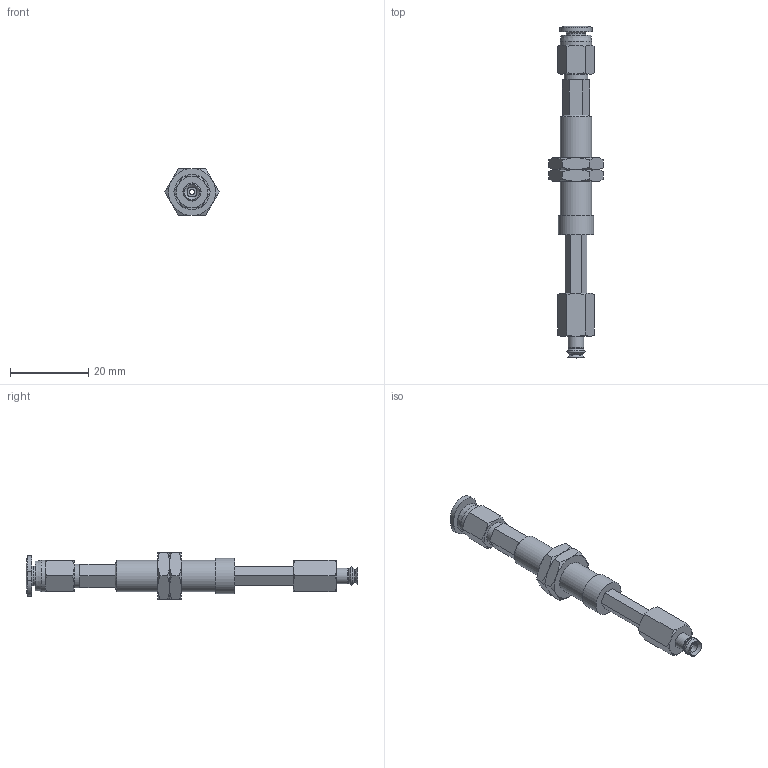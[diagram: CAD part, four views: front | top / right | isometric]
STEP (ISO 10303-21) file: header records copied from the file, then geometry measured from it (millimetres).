
FILE_DESCRIPTION(('STEP AP203'),'1');
FILE_NAME('-O.stp','2025-08-27T06:11:21',(' '),(' '),'Spatial InterOp 3D',' ',' ');
FILE_SCHEMA(('CONFIG_CONTROL_DESIGN'));
Length unit declared in the file: millimetre
Products named in the file (7): BNABPJTH-4-15-※-O; ADAPTER; NAPFTH-2A-15-MBODY; Nut-2A-15-h; NAPFTH-2A-15-FBODY; BPJG-4-※; PC-C_04-M3
Assembly tree (7 placements, depth 2):
  BNABPJTH-4-15-※-O
    ADAPTER
    NAPFTH-2A-15-MBODY
    Nut-2A-15-h  x2
    NAPFTH-2A-15-FBODY
    BPJG-4-※
    PC-C_04-M3
Bounding box: 13.86 x 84.77 x 12 mm (x, y, z)
Volume: 3233.5 mm3; surface area: 4634.2 mm2
Topology: 6 solids, 8 shells, 175 faces, 371 edges, 224 vertices
Faces by surface type: plane 70, cone 65, cylinder 22, torus 11, bspline 4, revolution 3
Full cylindrical faces by diameter (mm): 1.2 x2, 2 x2, 2.4 x1, 2.459 x1, 2.5 x2, 3 x3, 4 x1, 4.9 x1, 6 x1, 6.1 x1, 7.188 x2, 8 x2, 9 x1
Entity records: 4466 total; most frequent: CARTESIAN_POINT 1196, DIRECTION 603, ORIENTED_EDGE 528, EDGE_CURVE 265, AXIS2_PLACEMENT_3D 258, EDGE_LOOP 222, VERTEX_POINT 185, FACE_OUTER_BOUND 122
